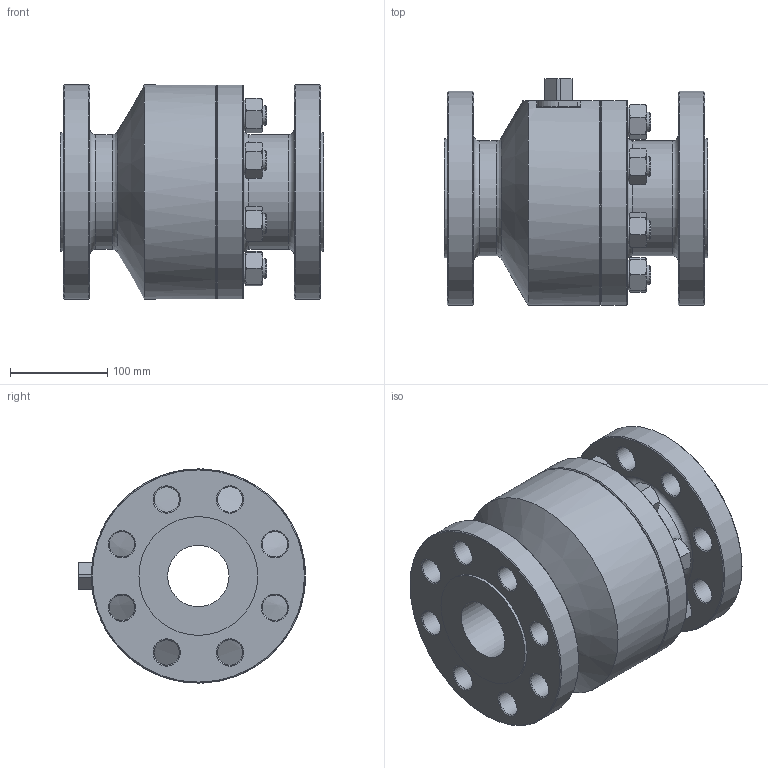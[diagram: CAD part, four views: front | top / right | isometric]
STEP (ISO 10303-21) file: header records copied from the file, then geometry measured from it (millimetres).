
FILE_DESCRIPTION((''),'2;1');
FILE_NAME('C:\Users\Bartek\Desktop\Nowy folder (2)\Nowy folder (22)\WK5b\WK5b DN65 PN100_Substitute_1.stp','2024-09-17T09:22:54',('Bartek'),(''),'Autodesk Inventor 2012','Autodesk Inventor 2012','');
FILE_SCHEMA(('AUTOMOTIVE_DESIGN { 1 0 10303 214 1 1 1 1 }'));
Length unit declared in the file: millimetre
Products named in the file (1): WK5b DN65 PN100_Substitute_1
Bounding box: 270 x 233 x 220 mm (x, y, z)
Volume: 6523154.1 mm3; surface area: 459831.5 mm2
Topology: 1 solids, 1 shells, 300 faces, 683 edges, 415 vertices
Faces by surface type: cone 144, plane 98, cylinder 54, torus 4
Full cylindrical faces by diameter (mm): 20 x8, 26 x16, 31 x8, 63 x1, 118 x2, 122 x2, 130 x1, 220 x2
Entity records: 7885 total; most frequent: CARTESIAN_POINT 1658, DIRECTION 1231, ORIENTED_EDGE 1138, EDGE_CURVE 569, AXIS2_PLACEMENT_3D 560, EDGE_LOOP 457, VERTEX_POINT 390, STYLED_ITEM 301
